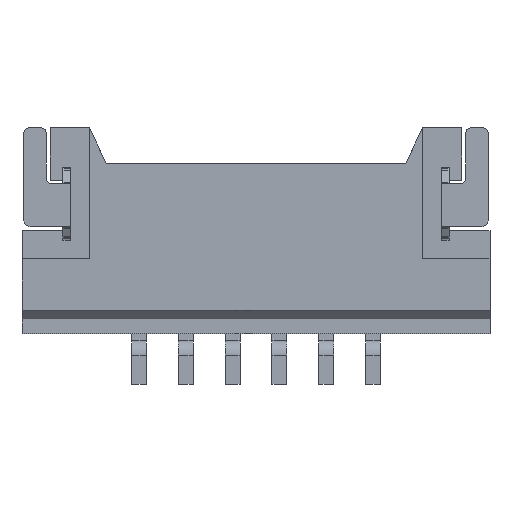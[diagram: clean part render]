
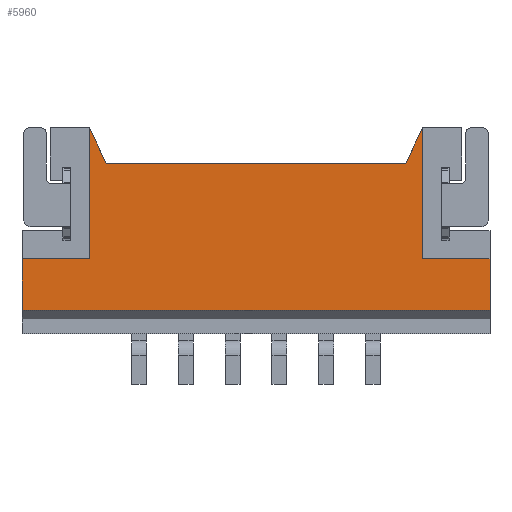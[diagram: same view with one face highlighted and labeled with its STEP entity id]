
A CAD part, top view. The second image highlights one B-rep face of the part: STEP entity #5960.
In plain terms, the highlighted planar face has unit normal (0, 0, 1).
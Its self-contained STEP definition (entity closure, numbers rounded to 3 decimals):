
#3514=CARTESIAN_POINT('Vertex',(-4.45,5.5,2.05)) ;
#3517=CARTESIAN_POINT('Line Origine',(-4.225,5.025,2.05)) ;
#3521=CARTESIAN_POINT('Vertex',(-4.,4.55,2.05)) ;
#3577=CARTESIAN_POINT('Vertex',(4.,4.55,2.05)) ;
#3580=CARTESIAN_POINT('Line Origine',(4.225,5.025,2.05)) ;
#3584=CARTESIAN_POINT('Vertex',(4.45,5.5,2.05)) ;
#5891=CARTESIAN_POINT('Axis2P3D Location',(0.,0.625,2.05)) ;
#5896=CARTESIAN_POINT('Line Origine',(5.35,2.,2.05)) ;
#5900=CARTESIAN_POINT('Vertex',(4.45,2.,2.05)) ;
#5902=CARTESIAN_POINT('Vertex',(6.25,2.,2.05)) ;
#5905=CARTESIAN_POINT('Line Origine',(4.45,3.75,2.05)) ;
#5910=CARTESIAN_POINT('Line Origine',(0.,4.55,2.05)) ;
#5915=CARTESIAN_POINT('Line Origine',(-4.45,3.75,2.05)) ;
#5919=CARTESIAN_POINT('Vertex',(-4.45,2.,2.05)) ;
#5922=CARTESIAN_POINT('Line Origine',(-5.35,2.,2.05)) ;
#5926=CARTESIAN_POINT('Vertex',(-6.25,2.,2.05)) ;
#5929=CARTESIAN_POINT('Line Origine',(-6.25,1.313,2.05)) ;
#5933=CARTESIAN_POINT('Vertex',(-6.25,0.625,2.05)) ;
#5936=CARTESIAN_POINT('Line Origine',(0.,0.625,2.05)) ;
#5940=CARTESIAN_POINT('Vertex',(6.25,0.625,2.05)) ;
#5943=CARTESIAN_POINT('Line Origine',(6.25,1.313,2.05)) ;
#3518=DIRECTION('Vector Direction',(-0.428,0.904,0.)) ;
#3581=DIRECTION('Vector Direction',(-0.428,-0.904,0.)) ;
#5892=DIRECTION('Axis2P3D Direction',(0.,0.,-1.)) ;
#5893=DIRECTION('Axis2P3D XDirection',(0.,1.,0.)) ;
#5897=DIRECTION('Vector Direction',(-1.,0.,0.)) ;
#5906=DIRECTION('Vector Direction',(0.,-1.,0.)) ;
#5911=DIRECTION('Vector Direction',(-1.,0.,0.)) ;
#5916=DIRECTION('Vector Direction',(0.,-1.,0.)) ;
#5923=DIRECTION('Vector Direction',(1.,0.,0.)) ;
#5930=DIRECTION('Vector Direction',(0.,1.,0.)) ;
#5937=DIRECTION('Vector Direction',(1.,0.,0.)) ;
#5944=DIRECTION('Vector Direction',(0.,1.,0.)) ;
#5894=AXIS2_PLACEMENT_3D('Plane Axis2P3D',#5891,#5892,#5893) ;
#5949=ORIENTED_EDGE('',*,*,#5904,.F.) ;
#5950=ORIENTED_EDGE('',*,*,#5909,.F.) ;
#5951=ORIENTED_EDGE('',*,*,#3586,.F.) ;
#5952=ORIENTED_EDGE('',*,*,#5914,.F.) ;
#5953=ORIENTED_EDGE('',*,*,#3523,.F.) ;
#5954=ORIENTED_EDGE('',*,*,#5921,.F.) ;
#5955=ORIENTED_EDGE('',*,*,#5928,.F.) ;
#5956=ORIENTED_EDGE('',*,*,#5935,.T.) ;
#5957=ORIENTED_EDGE('',*,*,#5942,.T.) ;
#5958=ORIENTED_EDGE('',*,*,#5947,.F.) ;
#3519=VECTOR('Line Direction',#3518,1.) ;
#3582=VECTOR('Line Direction',#3581,1.) ;
#5898=VECTOR('Line Direction',#5897,1.) ;
#5907=VECTOR('Line Direction',#5906,1.) ;
#5912=VECTOR('Line Direction',#5911,1.) ;
#5917=VECTOR('Line Direction',#5916,1.) ;
#5924=VECTOR('Line Direction',#5923,1.) ;
#5931=VECTOR('Line Direction',#5930,1.) ;
#5938=VECTOR('Line Direction',#5937,1.) ;
#5945=VECTOR('Line Direction',#5944,1.) ;
#5960=ADVANCED_FACE('\X2\96F64EF651E04F554F53\X0\',(#5959),#5895,.F.) ;
#3523=EDGE_CURVE('',#3515,#3522,#3520,.F.) ;
#3586=EDGE_CURVE('',#3578,#3585,#3583,.F.) ;
#5904=EDGE_CURVE('',#5901,#5903,#5899,.F.) ;
#5909=EDGE_CURVE('',#3585,#5901,#5908,.T.) ;
#5914=EDGE_CURVE('',#3522,#3578,#5913,.F.) ;
#5921=EDGE_CURVE('',#5920,#3515,#5918,.F.) ;
#5928=EDGE_CURVE('',#5927,#5920,#5925,.T.) ;
#5935=EDGE_CURVE('',#5927,#5934,#5932,.F.) ;
#5942=EDGE_CURVE('',#5934,#5941,#5939,.T.) ;
#5947=EDGE_CURVE('',#5903,#5941,#5946,.F.) ;
#5948=EDGE_LOOP('',(#5949,#5950,#5951,#5952,#5953,#5954,#5955,#5956,#5957,#5958)) ;
#5959=FACE_OUTER_BOUND('',#5948,.T.) ;
#3520=LINE('Line',#3517,#3519) ;
#3583=LINE('Line',#3580,#3582) ;
#5899=LINE('Line',#5896,#5898) ;
#5908=LINE('Line',#5905,#5907) ;
#5913=LINE('Line',#5910,#5912) ;
#5918=LINE('Line',#5915,#5917) ;
#5925=LINE('Line',#5922,#5924) ;
#5932=LINE('Line',#5929,#5931) ;
#5939=LINE('Line',#5936,#5938) ;
#5946=LINE('Line',#5943,#5945) ;
#5895=PLANE('Plane',#5894) ;
#3515=VERTEX_POINT('',#3514) ;
#3522=VERTEX_POINT('',#3521) ;
#3578=VERTEX_POINT('',#3577) ;
#3585=VERTEX_POINT('',#3584) ;
#5901=VERTEX_POINT('',#5900) ;
#5903=VERTEX_POINT('',#5902) ;
#5920=VERTEX_POINT('',#5919) ;
#5927=VERTEX_POINT('',#5926) ;
#5934=VERTEX_POINT('',#5933) ;
#5941=VERTEX_POINT('',#5940) ;
